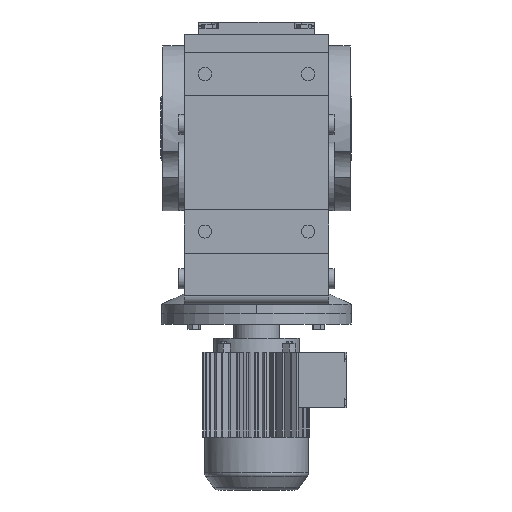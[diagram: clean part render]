
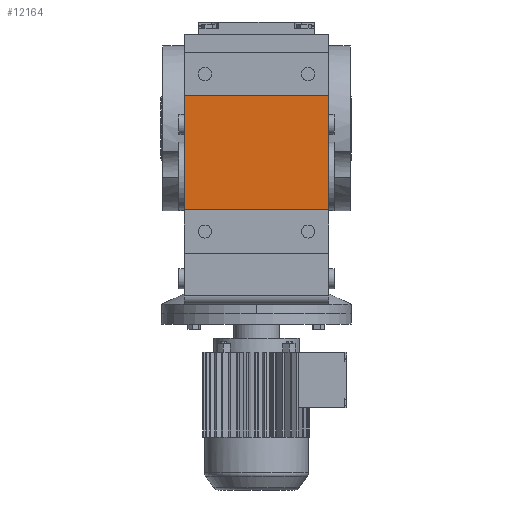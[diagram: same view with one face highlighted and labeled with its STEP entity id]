
A CAD part, front view. The second image highlights one B-rep face of the part: STEP entity #12164.
In plain terms, the highlighted planar face has unit normal (0, -1, 0).
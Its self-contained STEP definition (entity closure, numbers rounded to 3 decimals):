
#1047 = PLANE('',#1048);
#1048 = AXIS2_PLACEMENT_3D('',#1049,#1050,#1051);
#1049 = CARTESIAN_POINT('',(-133.,-287.975,-307.95));
#1050 = DIRECTION('',(-1.,0.,0.));
#1051 = DIRECTION('',(0.,0.,1.));
#5690 = VERTEX_POINT('',#5691);
#5691 = CARTESIAN_POINT('',(-133.,-303.975,-150.));
#5705 = PLANE('',#5706);
#5706 = AXIS2_PLACEMENT_3D('',#5707,#5708,#5709);
#5707 = CARTESIAN_POINT('',(-133.,-303.975,-150.));
#5708 = DIRECTION('',(0.,0.,1.));
#5709 = DIRECTION('',(0.,-1.,0.));
#5717 = EDGE_CURVE('',#5718,#5690,#5720,.T.);
#5718 = VERTEX_POINT('',#5719);
#5719 = CARTESIAN_POINT('',(-133.,-303.975,60.));
#5720 = SURFACE_CURVE('',#5721,(#5725,#5732),.PCURVE_S1.);
#5721 = LINE('',#5722,#5723);
#5722 = CARTESIAN_POINT('',(-133.,-303.975,60.));
#5723 = VECTOR('',#5724,1.);
#5724 = DIRECTION('',(0.,0.,-1.));
#5725 = PCURVE('',#1047,#5726);
#5726 = DEFINITIONAL_REPRESENTATION('',(#5727),#5731);
#5727 = LINE('',#5728,#5729);
#5728 = CARTESIAN_POINT('',(367.95,-16.));
#5729 = VECTOR('',#5730,1.);
#5730 = DIRECTION('',(-1.,0.));
#5731 = ( GEOMETRIC_REPRESENTATION_CONTEXT(2) 
PARAMETRIC_REPRESENTATION_CONTEXT() REPRESENTATION_CONTEXT('2D SPACE',''
  ) );
#5732 = PCURVE('',#5733,#5738);
#5733 = PLANE('',#5734);
#5734 = AXIS2_PLACEMENT_3D('',#5735,#5736,#5737);
#5735 = CARTESIAN_POINT('',(-133.,-303.975,60.));
#5736 = DIRECTION('',(0.,-1.,0.));
#5737 = DIRECTION('',(0.,0.,-1.));
#5738 = DEFINITIONAL_REPRESENTATION('',(#5739),#5743);
#5739 = LINE('',#5740,#5741);
#5740 = CARTESIAN_POINT('',(0.,0.));
#5741 = VECTOR('',#5742,1.);
#5742 = DIRECTION('',(1.,0.));
#5743 = ( GEOMETRIC_REPRESENTATION_CONTEXT(2) 
PARAMETRIC_REPRESENTATION_CONTEXT() REPRESENTATION_CONTEXT('2D SPACE',''
  ) );
#5761 = PLANE('',#5762);
#5762 = AXIS2_PLACEMENT_3D('',#5763,#5764,#5765);
#5763 = CARTESIAN_POINT('',(-133.,-303.975,60.));
#5764 = DIRECTION('',(0.,0.,-1.));
#5765 = DIRECTION('',(-1.,0.,0.));
#10224 = PLANE('',#10225);
#10225 = AXIS2_PLACEMENT_3D('',#10226,#10227,#10228);
#10226 = CARTESIAN_POINT('',(133.,-287.975,-307.95));
#10227 = DIRECTION('',(-1.,0.,0.));
#10228 = DIRECTION('',(0.,0.,1.));
#11232 = VERTEX_POINT('',#11233);
#11233 = CARTESIAN_POINT('',(133.,-303.975,-150.));
#11254 = EDGE_CURVE('',#5690,#11232,#11255,.T.);
#11255 = SURFACE_CURVE('',#11256,(#11260,#11267),.PCURVE_S1.);
#11256 = LINE('',#11257,#11258);
#11257 = CARTESIAN_POINT('',(-133.,-303.975,-150.));
#11258 = VECTOR('',#11259,1.);
#11259 = DIRECTION('',(1.,0.,0.));
#11260 = PCURVE('',#5705,#11261);
#11261 = DEFINITIONAL_REPRESENTATION('',(#11262),#11266);
#11262 = LINE('',#11263,#11264);
#11263 = CARTESIAN_POINT('',(0.,0.));
#11264 = VECTOR('',#11265,1.);
#11265 = DIRECTION('',(0.,1.));
#11266 = ( GEOMETRIC_REPRESENTATION_CONTEXT(2) 
PARAMETRIC_REPRESENTATION_CONTEXT() REPRESENTATION_CONTEXT('2D SPACE',''
  ) );
#11267 = PCURVE('',#5733,#11268);
#11268 = DEFINITIONAL_REPRESENTATION('',(#11269),#11273);
#11269 = LINE('',#11270,#11271);
#11270 = CARTESIAN_POINT('',(210.,0.));
#11271 = VECTOR('',#11272,1.);
#11272 = DIRECTION('',(0.,1.));
#11273 = ( GEOMETRIC_REPRESENTATION_CONTEXT(2) 
PARAMETRIC_REPRESENTATION_CONTEXT() REPRESENTATION_CONTEXT('2D SPACE',''
  ) );
#11779 = EDGE_CURVE('',#5718,#11780,#11782,.T.);
#11780 = VERTEX_POINT('',#11781);
#11781 = CARTESIAN_POINT('',(133.,-303.975,60.));
#11782 = SURFACE_CURVE('',#11783,(#11787,#11794),.PCURVE_S1.);
#11783 = LINE('',#11784,#11785);
#11784 = CARTESIAN_POINT('',(-133.,-303.975,60.));
#11785 = VECTOR('',#11786,1.);
#11786 = DIRECTION('',(1.,0.,0.));
#11787 = PCURVE('',#5761,#11788);
#11788 = DEFINITIONAL_REPRESENTATION('',(#11789),#11793);
#11789 = LINE('',#11790,#11791);
#11790 = CARTESIAN_POINT('',(0.,0.));
#11791 = VECTOR('',#11792,1.);
#11792 = DIRECTION('',(-1.,0.));
#11793 = ( GEOMETRIC_REPRESENTATION_CONTEXT(2) 
PARAMETRIC_REPRESENTATION_CONTEXT() REPRESENTATION_CONTEXT('2D SPACE',''
  ) );
#11794 = PCURVE('',#5733,#11795);
#11795 = DEFINITIONAL_REPRESENTATION('',(#11796),#11800);
#11796 = LINE('',#11797,#11798);
#11797 = CARTESIAN_POINT('',(0.,0.));
#11798 = VECTOR('',#11799,1.);
#11799 = DIRECTION('',(0.,1.));
#11800 = ( GEOMETRIC_REPRESENTATION_CONTEXT(2) 
PARAMETRIC_REPRESENTATION_CONTEXT() REPRESENTATION_CONTEXT('2D SPACE',''
  ) );
#12164 = ADVANCED_FACE('',(#12165),#5733,.T.);
#12165 = FACE_BOUND('',#12166,.T.);
#12166 = EDGE_LOOP('',(#12167,#12168,#12189,#12190));
#12167 = ORIENTED_EDGE('',*,*,#11254,.T.);
#12168 = ORIENTED_EDGE('',*,*,#12169,.F.);
#12169 = EDGE_CURVE('',#11780,#11232,#12170,.T.);
#12170 = SURFACE_CURVE('',#12171,(#12175,#12182),.PCURVE_S1.);
#12171 = LINE('',#12172,#12173);
#12172 = CARTESIAN_POINT('',(133.,-303.975,60.));
#12173 = VECTOR('',#12174,1.);
#12174 = DIRECTION('',(0.,0.,-1.));
#12175 = PCURVE('',#5733,#12176);
#12176 = DEFINITIONAL_REPRESENTATION('',(#12177),#12181);
#12177 = LINE('',#12178,#12179);
#12178 = CARTESIAN_POINT('',(0.,266.));
#12179 = VECTOR('',#12180,1.);
#12180 = DIRECTION('',(1.,0.));
#12181 = ( GEOMETRIC_REPRESENTATION_CONTEXT(2) 
PARAMETRIC_REPRESENTATION_CONTEXT() REPRESENTATION_CONTEXT('2D SPACE',''
  ) );
#12182 = PCURVE('',#10224,#12183);
#12183 = DEFINITIONAL_REPRESENTATION('',(#12184),#12188);
#12184 = LINE('',#12185,#12186);
#12185 = CARTESIAN_POINT('',(367.95,-16.));
#12186 = VECTOR('',#12187,1.);
#12187 = DIRECTION('',(-1.,0.));
#12188 = ( GEOMETRIC_REPRESENTATION_CONTEXT(2) 
PARAMETRIC_REPRESENTATION_CONTEXT() REPRESENTATION_CONTEXT('2D SPACE',''
  ) );
#12189 = ORIENTED_EDGE('',*,*,#11779,.F.);
#12190 = ORIENTED_EDGE('',*,*,#5717,.T.);
